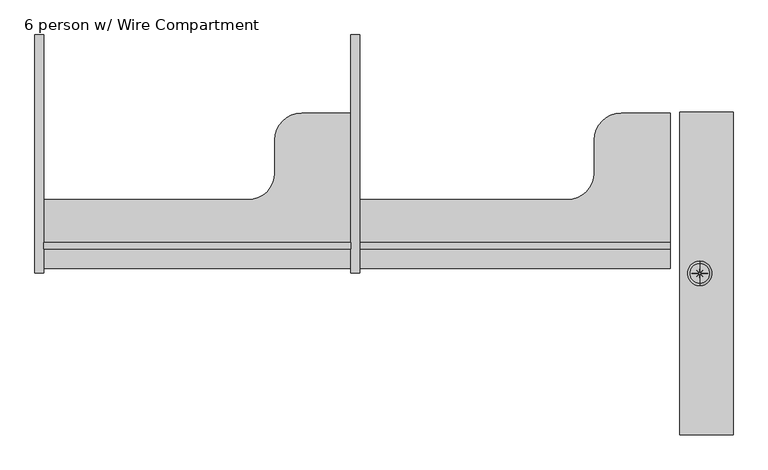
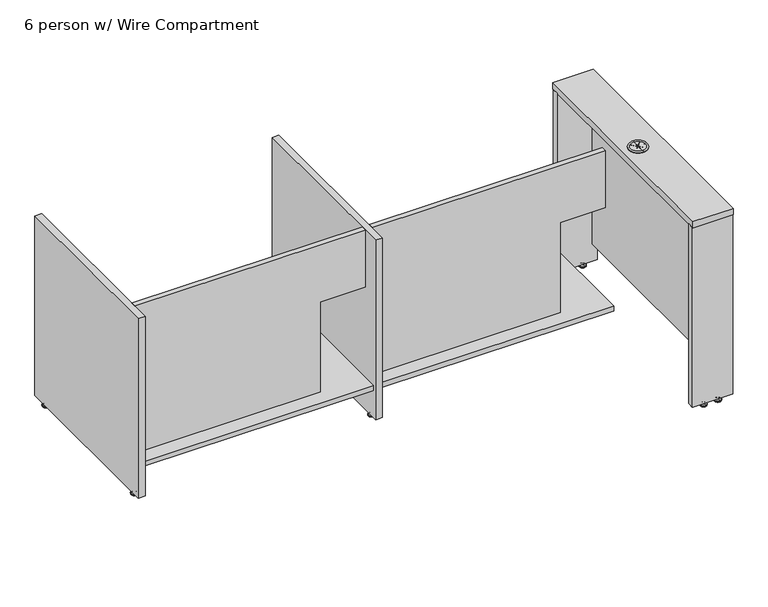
"""IFC4 building model written with IfcOpenShell, lengths in millimetres: furniture geometry, Nova Solutions - Collaboration Table - Boat_6-8 person : 6 person w/ Wire Compartment."""

from ifc_helpers import new_model, si_unit, point, frame, frame_2d, origin, place, context, project, spatial, polyline, circle_curve, ellipse_curve, trimmed, segment, composite_curve, outline, extrude, source, transform, mapped, element, save
from ifc_brep_helpers import plane_surface, cylinder_surface, revolved_surface, advanced_brep


def furniture_6_person_w_wire_compartment_4a659a42(model_context):
    return source(origin(), model_context, "Body", "SolidModel", [
        advanced_brep(
        [(981.65, -34.925, 762.0), (981.65, 34.925, 762.0), (981.65, 24.6435157, 762.0), (980.503542, 2.7677944, 762.0), (964.2244029, 17.4255971, 762.0), (978.8822056, 1.146458, 762.0), (957.0064843, 0.0, 762.0), (978.8822056, -1.146458, 762.0), (964.2244029, -17.4255971, 762.0), (980.503542, -2.7677944, 762.0), (981.65, -24.6435157, 762.0), (982.796458, -2.7677944, 762.0), (999.0755971, -17.4255971, 762.0), (984.4177944, -1.146458, 762.0), (1006.2935157, 0.0, 762.0), (984.4177944, 1.146458, 762.0), (999.0755971, 17.4255971, 762.0), (982.796458, 2.7677944, 762.0), (981.65, -34.925, 763.3787817), (981.65, 34.925, 763.3787817), (981.65, -28.7119174, 765.175), (981.65, 28.7119174, 765.175), (981.65, -24.6435157, 765.175), (980.503542, -2.7677944, 765.175), (964.2244029, -17.4255971, 765.175), (978.8822056, -1.146458, 765.175), (957.0064843, 0.0, 765.175), (978.8822056, 1.146458, 765.175), (964.2244029, 17.4255971, 765.175), (980.503542, 2.7677944, 765.175), (981.65, 24.6435157, 765.175), (982.796458, 2.7677944, 765.175), (999.0755971, 17.4255971, 765.175), (984.4177944, 1.146458, 765.175), (1006.2935157, 0.0, 765.175), (984.4177944, -1.146458, 765.175), (999.0755971, -17.4255971, 765.175), (982.796458, -2.7677944, 765.175)],
        [
            (0, 1, circle_curve(frame((981.65, 0.0, 762.0), z_axis=(0.0, 0.0, -1.0), x_axis=(0.0, 1.0, 0.0)), 34.925)),
            (1, 2),
            (2, 3),
            (3, 4),
            (4, 5),
            (5, 6),
            (6, 7),
            (7, 8),
            (8, 9),
            (9, 10),
            (10, 0),
            (1, 0, circle_curve(frame((981.65, 0.0, 762.0), z_axis=(0.0, 0.0, -1.0), x_axis=(0.0, 1.0, 0.0)), 34.925)),
            (10, 11),
            (11, 12),
            (12, 13),
            (13, 14),
            (14, 15),
            (15, 16),
            (16, 17),
            (17, 2),
            (0, 18),
            (18, 19, circle_curve(frame((981.65, 0.0, 763.3787817), z_axis=(0.0, 0.0, -1.0), x_axis=(0.0, 1.0, 0.0)), 34.925)),
            (19, 1),
            (19, 18, circle_curve(frame((981.65, 0.0, 763.3787817), z_axis=(0.0, 0.0, -1.0), x_axis=(0.0, 1.0, 0.0)), 34.925)),
            (18, 20, circle_curve(frame((981.65, -31.558813, 763.3787817), z_axis=(-1.0, 0.0, 0.0), x_axis=(0.0, -1.0, 0.0)), 3.366187)),
            (20, 21, circle_curve(frame((981.65, 0.0, 765.175), z_axis=(0.0, 0.0, -1.0), x_axis=(0.0, 1.0, 0.0)), 28.7119174)),
            (21, 19, circle_curve(frame((981.65, 31.558813, 763.3787817), z_axis=(-1.0, 0.0, 0.0), x_axis=(0.0, 1.0, 0.0)), 3.366187)),
            (21, 20, circle_curve(frame((981.65, 0.0, 765.175), z_axis=(0.0, 0.0, -1.0), x_axis=(0.0, 1.0, 0.0)), 28.7119174)),
            (20, 22),
            (22, 23),
            (23, 24),
            (24, 25),
            (25, 26),
            (26, 27),
            (27, 28),
            (28, 29),
            (29, 30),
            (30, 21),
            (30, 31),
            (31, 32),
            (32, 33),
            (33, 34),
            (34, 35),
            (35, 36),
            (36, 37),
            (37, 22),
            (26, 6),
            (5, 27),
            (25, 7),
            (24, 8),
            (23, 9),
            (22, 10),
            (37, 11),
            (36, 12),
            (35, 13),
            (34, 14),
            (33, 15),
            (32, 16),
            (31, 17),
            (30, 2),
            (29, 3),
            (28, 4),
        ],
        [
            plane_surface(frame((981.65, 0.0, 762.0), z_axis=(0.0, 0.0, -1.0), x_axis=(0.0, 1.0, 0.0))),
            cylinder_surface(frame((981.65, 0.0, 850.9), z_axis=(0.0, 0.0, 1.0), x_axis=(0.0, 1.0, 0.0)), 34.925),
            revolved_surface(trimmed(ellipse_curve(frame((981.65, 31.558813, 763.3787817), z_axis=(1.0, 0.0, 0.0), x_axis=(0.0, 1.0, 0.0)), 3.366187, 3.366187), [point((981.65, 34.925, 763.3787817))], [point((981.65, 28.7119174, 765.175))], True, "CARTESIAN"), (981.65, 0.0, 850.9), (0.0, 0.0, 1.0)),
            plane_surface(frame((981.65, 0.0, 765.175), z_axis=(0.0, 0.0, 1.0), x_axis=(0.0, 1.0, 0.0))),
            plane_surface(frame((981.65, 1.2915119, 787.4), z_axis=(0.05233595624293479, -0.9986295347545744, 0.0), x_axis=(0.0, 0.0, -1.0))),
            plane_surface(frame((957.0064843, 0.0, 787.4), z_axis=(0.052335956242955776, 0.9986295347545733, 0.0), x_axis=(0.0, 0.0, -1.0))),
            plane_surface(frame((980.7367632, 0.9132368, 787.4), z_axis=(0.7431448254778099, -0.6691306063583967, 0.0), x_axis=(0.0, 0.0, -1.0))),
            plane_surface(frame((964.2244029, -17.4255971, 787.4), z_axis=(-0.6691306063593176, 0.7431448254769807, 0.0), x_axis=(0.0, 0.0, -1.0))),
            plane_surface(frame((980.3584881, 0.0, 787.4), z_axis=(0.9986295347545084, 0.05233595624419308, 0.0), x_axis=(0.0, 0.0, -1.0))),
            plane_surface(frame((981.65, -24.6435157, 787.4), z_axis=(-0.9986295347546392, 0.05233595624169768, 0.0), x_axis=(0.0, 0.0, -1.0))),
            plane_surface(frame((980.7367632, -0.9132368, 787.4), z_axis=(0.6691306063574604, 0.743144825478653, 0.0), x_axis=(0.0, 0.0, -1.0))),
            plane_surface(frame((999.0755971, -17.4255971, 787.4), z_axis=(-0.7431448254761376, -0.669130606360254, 0.0), x_axis=(0.0, 0.0, -1.0))),
            plane_surface(frame((981.65, -1.2915119, 787.4), z_axis=(-0.052335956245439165, 0.9986295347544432, 0.0), x_axis=(0.0, 0.0, -1.0))),
            plane_surface(frame((1006.2935157, 0.0, 787.4), z_axis=(-0.05233595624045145, -0.9986295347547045, 0.0), x_axis=(0.0, 0.0, -1.0))),
            plane_surface(frame((982.5632368, -0.9132368, 787.4), z_axis=(-0.7431448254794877, 0.6691306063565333, 0.0), x_axis=(0.0, 0.0, -1.0))),
            plane_surface(frame((999.0755971, 17.4255971, 787.4), z_axis=(0.669130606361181, -0.7431448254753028, 0.0), x_axis=(0.0, 0.0, -1.0))),
            plane_surface(frame((982.9415119, 0.0, 787.4), z_axis=(-0.9986295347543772, -0.05233595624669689, 0.0), x_axis=(0.0, 0.0, -1.0))),
            plane_surface(frame((981.65, 24.6435157, 787.4), z_axis=(0.9986295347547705, -0.05233595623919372, 0.0), x_axis=(0.0, 0.0, -1.0))),
            plane_surface(frame((982.5632368, 0.9132368, 787.4), z_axis=(-0.6691306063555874, -0.7431448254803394, 0.0), x_axis=(0.0, 0.0, -1.0))),
            plane_surface(frame((964.2244029, 17.4255971, 787.4), z_axis=(0.743144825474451, 0.669130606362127, 0.0), x_axis=(0.0, 0.0, -1.0))),
        ],
        [
            (0, [[1, 2, 3, 4, 5, 6, 7, 8, 9, 10, 11]]),
            (0, [[12, -11, 13, 14, 15, 16, 17, 18, 19, 20, -2]]),
            (1, [[-1, 21, 22, 23]]),
            (1, [[-12, -23, 24, -21]]),
            (2, [[-22, 25, 26, 27]]),
            (2, [[-24, -27, 28, -25]]),
            (3, [[-26, 29, 30, 31, 32, 33, 34, 35, 36, 37, 38]]),
            (3, [[-28, -38, 39, 40, 41, 42, 43, 44, 45, 46, -29]]),
            (4, [[47, -6, 48, -34]]),
            (5, [[-47, -33, 49, -7]]),
            (6, [[50, -8, -49, -32]]),
            (7, [[-50, -31, 51, -9]]),
            (8, [[52, -10, -51, -30]]),
            (9, [[-52, -46, 53, -13]]),
            (10, [[54, -14, -53, -45]]),
            (11, [[-54, -44, 55, -15]]),
            (12, [[56, -16, -55, -43]]),
            (13, [[-56, -42, 57, -17]]),
            (14, [[58, -18, -57, -41]]),
            (15, [[-58, -40, 59, -19]]),
            (16, [[60, -20, -59, -39]]),
            (17, [[-60, -37, 61, -3]]),
            (18, [[62, -4, -61, -36]]),
            (19, [[-62, -35, -48, -5]]),
        ],
    ),
        advanced_brep(
        [(1027.6359375, 451.0276506, 11.1125), (1027.6359375, 437.6723494, 11.1125), (1027.6359375, 444.35, 11.1125), (1027.6359375, 451.0276506, 9.525), (1027.6359375, 437.6723494, 9.525), (1027.6359375, 456.2355135, 4.7748687), (1027.6359375, 432.4644865, 4.7748687), (1027.6359375, 457.0966506, 3.989419), (1027.6359375, 431.6033494, 3.989419), (1027.6359375, 457.0966506, 3.175), (1027.6359375, 431.6033494, 3.175), (1027.6359375, 456.2459119, 0.0), (1027.6359375, 432.4540881, 0.0), (1027.6359375, 444.35, 0.0)],
        [
            (0, 1, circle_curve(frame((1027.6359375, 444.35, 11.1125), z_axis=(0.0, 0.0, 1.0), x_axis=(0.0, -1.0, 0.0)), 6.6776506)),
            (1, 2),
            (2, 0),
            (1, 0, circle_curve(frame((1027.6359375, 444.35, 11.1125), z_axis=(0.0, 0.0, 1.0), x_axis=(0.0, -1.0, 0.0)), 6.6776506)),
            (3, 4, circle_curve(frame((1027.6359375, 444.35, 9.525), z_axis=(0.0, 0.0, 1.0), x_axis=(0.0, -1.0, 0.0)), 6.6776506)),
            (4, 1),
            (0, 3),
            (4, 3, circle_curve(frame((1027.6359375, 444.35, 9.525), z_axis=(0.0, 0.0, 1.0), x_axis=(0.0, -1.0, 0.0)), 6.6776506)),
            (5, 6, circle_curve(frame((1027.6359375, 444.35, 4.7748687), z_axis=(0.0, 0.0, 1.0), x_axis=(0.0, -1.0, 0.0)), 11.8855135)),
            (6, 4, circle_curve(frame((1027.6359375, 431.4179373, 11.1521822), z_axis=(1.0, 0.0, 0.0), x_axis=(0.0, 1.0, 0.0)), 6.462615)),
            (3, 5, circle_curve(frame((1027.6359375, 457.2820627, 11.1521822), z_axis=(1.0, 0.0, 0.0), x_axis=(0.0, -1.0, 0.0)), 6.462615)),
            (6, 5, circle_curve(frame((1027.6359375, 444.35, 4.7748687), z_axis=(0.0, 0.0, 1.0), x_axis=(0.0, -1.0, 0.0)), 11.8855135)),
            (7, 8, circle_curve(frame((1027.6359375, 444.35, 3.989419), z_axis=(0.0, 0.0, 1.0), x_axis=(0.0, -1.0, 0.0)), 12.7466506)),
            (8, 6, circle_curve(frame((1027.6359375, 432.6375368, 3.7203591), z_axis=(-1.0, 0.0, 0.0), x_axis=(0.0, 1.0, 0.0)), 1.0686145)),
            (5, 7, circle_curve(frame((1027.6359375, 456.0624632, 3.7203591), z_axis=(-1.0, 0.0, 0.0), x_axis=(0.0, -1.0, 0.0)), 1.0686145)),
            (8, 7, circle_curve(frame((1027.6359375, 444.35, 3.989419), z_axis=(0.0, 0.0, 1.0), x_axis=(0.0, -1.0, 0.0)), 12.7466506)),
            (9, 10, circle_curve(frame((1027.6359375, 444.35, 3.175), z_axis=(0.0, 0.0, 1.0), x_axis=(0.0, -1.0, 0.0)), 12.7466506)),
            (10, 8),
            (7, 9),
            (10, 9, circle_curve(frame((1027.6359375, 444.35, 3.175), z_axis=(0.0, 0.0, 1.0), x_axis=(0.0, -1.0, 0.0)), 12.7466506)),
            (11, 12, circle_curve(frame((1027.6359375, 444.35, 0.0), z_axis=(0.0, 0.0, 1.0), x_axis=(0.0, -1.0, 0.0)), 11.8959119)),
            (12, 10),
            (9, 11),
            (12, 11, circle_curve(frame((1027.6359375, 444.35, 0.0), z_axis=(0.0, 0.0, 1.0), x_axis=(0.0, -1.0, 0.0)), 11.8959119)),
            (13, 12),
            (11, 13),
        ],
        [
            plane_surface(frame((1027.6359375, 444.35, 11.1125), z_axis=(0.0, 0.0, 1.0), x_axis=(0.0, -1.0, 0.0))),
            cylinder_surface(frame((1027.6359375, 444.35, 43.2095994), z_axis=(0.0, 0.0, -1.0), x_axis=(0.0, -1.0, 0.0)), 6.6776506),
            revolved_surface(trimmed(ellipse_curve(frame((1027.6359375, 431.4179373, 11.1521822), z_axis=(-1.0, 0.0, 0.0), x_axis=(0.0, 1.0, 0.0)), 6.462615, 6.462615), [point((1027.6359375, 437.6723494, 9.525))], [point((1027.6359375, 432.4644865, 4.7748687))], True, "CARTESIAN"), (1027.6359375, 444.35, 43.2095994), (0.0, 0.0, -1.0)),
            revolved_surface(trimmed(ellipse_curve(frame((1027.6359375, 432.6375368, 3.7203591), z_axis=(1.0, 0.0, 0.0), x_axis=(0.0, 1.0, 0.0)), 1.0686145, 1.0686145), [point((1027.6359375, 432.4644865, 4.7748687))], [point((1027.6359375, 431.6033494, 3.989419))], True, "CARTESIAN"), (1027.6359375, 444.35, 43.2095994), (0.0, 0.0, -1.0)),
            cylinder_surface(frame((1027.6359375, 444.35, 43.2095994), z_axis=(0.0, 0.0, -1.0), x_axis=(0.0, -1.0, 0.0)), 12.7466506),
            revolved_surface(polyline([(1027.6359375, 431.6033494, 3.175), (1027.6359375, 432.4540881, 0.0)]), (1027.6359375, 444.35, 43.2095994), (0.0, 0.0, -1.0)),
            plane_surface(frame((1027.6359375, 444.35, 0.0), z_axis=(0.0, 0.0, -1.0), x_axis=(0.0, -1.0, 0.0))),
        ],
        [
            (0, [[1, 2, 3]]),
            (0, [[4, -3, -2]]),
            (1, [[5, 6, -1, 7]]),
            (1, [[8, -7, -4, -6]]),
            (2, [[9, 10, -5, 11]]),
            (2, [[12, -11, -8, -10]]),
            (3, [[13, 14, -9, 15]]),
            (3, [[16, -15, -12, -14]]),
            (4, [[17, 18, -13, 19]]),
            (4, [[20, -19, -16, -18]]),
            (5, [[21, 22, -17, 23]]),
            (5, [[24, -23, -20, -22]]),
            (6, [[25, -21, 26]]),
            (6, [[-26, -24, -25]]),
        ],
    ),
        advanced_brep(
        [(973.2640625, 451.0276506, 11.1125), (973.2640625, 437.6723494, 11.1125), (973.2640625, 444.35, 11.1125), (973.2640625, 451.0276506, 9.525), (973.2640625, 437.6723494, 9.525), (973.2640625, 456.2355135, 4.7748687), (973.2640625, 432.4644865, 4.7748687), (973.2640625, 457.0966506, 3.989419), (973.2640625, 431.6033494, 3.989419), (973.2640625, 457.0966506, 3.175), (973.2640625, 431.6033494, 3.175), (973.2640625, 456.2459119, 0.0), (973.2640625, 432.4540881, 0.0), (973.2640625, 444.35, 0.0)],
        [
            (0, 1, circle_curve(frame((973.2640625, 444.35, 11.1125), z_axis=(0.0, 0.0, 1.0), x_axis=(0.0, -1.0, 0.0)), 6.6776506)),
            (1, 2),
            (2, 0),
            (1, 0, circle_curve(frame((973.2640625, 444.35, 11.1125), z_axis=(0.0, 0.0, 1.0), x_axis=(0.0, -1.0, 0.0)), 6.6776506)),
            (3, 4, circle_curve(frame((973.2640625, 444.35, 9.525), z_axis=(0.0, 0.0, 1.0), x_axis=(0.0, -1.0, 0.0)), 6.6776506)),
            (4, 1),
            (0, 3),
            (4, 3, circle_curve(frame((973.2640625, 444.35, 9.525), z_axis=(0.0, 0.0, 1.0), x_axis=(0.0, -1.0, 0.0)), 6.6776506)),
            (5, 6, circle_curve(frame((973.2640625, 444.35, 4.7748687), z_axis=(0.0, 0.0, 1.0), x_axis=(0.0, -1.0, 0.0)), 11.8855135)),
            (6, 4, circle_curve(frame((973.2640625, 431.4179373, 11.1521822), z_axis=(1.0, 0.0, 0.0), x_axis=(0.0, 1.0, 0.0)), 6.462615)),
            (3, 5, circle_curve(frame((973.2640625, 457.2820627, 11.1521822), z_axis=(1.0, 0.0, 0.0), x_axis=(0.0, -1.0, 0.0)), 6.462615)),
            (6, 5, circle_curve(frame((973.2640625, 444.35, 4.7748687), z_axis=(0.0, 0.0, 1.0), x_axis=(0.0, -1.0, 0.0)), 11.8855135)),
            (7, 8, circle_curve(frame((973.2640625, 444.35, 3.989419), z_axis=(0.0, 0.0, 1.0), x_axis=(0.0, -1.0, 0.0)), 12.7466506)),
            (8, 6, circle_curve(frame((973.2640625, 432.6375368, 3.7203591), z_axis=(-1.0, 0.0, 0.0), x_axis=(0.0, 1.0, 0.0)), 1.0686145)),
            (5, 7, circle_curve(frame((973.2640625, 456.0624632, 3.7203591), z_axis=(-1.0, 0.0, 0.0), x_axis=(0.0, -1.0, 0.0)), 1.0686145)),
            (8, 7, circle_curve(frame((973.2640625, 444.35, 3.989419), z_axis=(0.0, 0.0, 1.0), x_axis=(0.0, -1.0, 0.0)), 12.7466506)),
            (9, 10, circle_curve(frame((973.2640625, 444.35, 3.175), z_axis=(0.0, 0.0, 1.0), x_axis=(0.0, -1.0, 0.0)), 12.7466506)),
            (10, 8),
            (7, 9),
            (10, 9, circle_curve(frame((973.2640625, 444.35, 3.175), z_axis=(0.0, 0.0, 1.0), x_axis=(0.0, -1.0, 0.0)), 12.7466506)),
            (11, 12, circle_curve(frame((973.2640625, 444.35, 0.0), z_axis=(0.0, 0.0, 1.0), x_axis=(0.0, -1.0, 0.0)), 11.8959119)),
            (12, 10),
            (9, 11),
            (12, 11, circle_curve(frame((973.2640625, 444.35, 0.0), z_axis=(0.0, 0.0, 1.0), x_axis=(0.0, -1.0, 0.0)), 11.8959119)),
            (13, 12),
            (11, 13),
        ],
        [
            plane_surface(frame((973.2640625, 444.35, 11.1125), z_axis=(0.0, 0.0, 1.0), x_axis=(0.0, -1.0, 0.0))),
            cylinder_surface(frame((973.2640625, 444.35, 43.2095994), z_axis=(0.0, 0.0, -1.0), x_axis=(0.0, -1.0, 0.0)), 6.6776506),
            revolved_surface(trimmed(ellipse_curve(frame((973.2640625, 431.4179373, 11.1521822), z_axis=(-1.0, 0.0, 0.0), x_axis=(0.0, 1.0, 0.0)), 6.462615, 6.462615), [point((973.2640625, 437.6723494, 9.525))], [point((973.2640625, 432.4644865, 4.7748687))], True, "CARTESIAN"), (973.2640625, 444.35, 43.2095994), (0.0, 0.0, -1.0)),
            revolved_surface(trimmed(ellipse_curve(frame((973.2640625, 432.6375368, 3.7203591), z_axis=(1.0, 0.0, 0.0), x_axis=(0.0, 1.0, 0.0)), 1.0686145, 1.0686145), [point((973.2640625, 432.4644865, 4.7748687))], [point((973.2640625, 431.6033494, 3.989419))], True, "CARTESIAN"), (973.2640625, 444.35, 43.2095994), (0.0, 0.0, -1.0)),
            cylinder_surface(frame((973.2640625, 444.35, 43.2095994), z_axis=(0.0, 0.0, -1.0), x_axis=(0.0, -1.0, 0.0)), 12.7466506),
            revolved_surface(polyline([(973.2640625, 431.6033494, 3.175), (973.2640625, 432.4540881, 0.0)]), (973.2640625, 444.35, 43.2095994), (0.0, 0.0, -1.0)),
            plane_surface(frame((973.2640625, 444.35, 0.0), z_axis=(0.0, 0.0, -1.0), x_axis=(0.0, -1.0, 0.0))),
        ],
        [
            (0, [[1, 2, 3]]),
            (0, [[4, -3, -2]]),
            (1, [[5, 6, -1, 7]]),
            (1, [[8, -7, -4, -6]]),
            (2, [[9, 10, -5, 11]]),
            (2, [[12, -11, -8, -10]]),
            (3, [[13, 14, -9, 15]]),
            (3, [[16, -15, -12, -14]]),
            (4, [[17, 18, -13, 19]]),
            (4, [[20, -19, -16, -18]]),
            (5, [[21, 22, -17, 23]]),
            (5, [[24, -23, -20, -22]]),
            (6, [[25, -21, 26]]),
            (6, [[-26, -24, -25]]),
        ],
    ),
        extrude(outline(polyline([(924.25, 457.2), (1076.65, 457.2), (1076.65, 431.5), (924.25, 431.5), (924.25, 457.2)])), frame((0.0, 0.0, 15.6), z_axis=(0.0, 0.0, 1.0), x_axis=(1.0, 0.0, 0.0)), (0.0, 0.0, 1.0), 720.7),
        advanced_brep(
        [(1027.6359375, -451.0276506, 11.1125), (1027.6359375, -444.35, 11.1125), (1027.6359375, -437.6723494, 11.1125), (1027.6359375, -451.0276506, 9.525), (1027.6359375, -437.6723494, 9.525), (1027.6359375, -456.2355135, 4.7748687), (1027.6359375, -432.4644865, 4.7748687), (1027.6359375, -457.0966506, 3.989419), (1027.6359375, -431.6033494, 3.989419), (1027.6359375, -457.0966506, 3.175), (1027.6359375, -431.6033494, 3.175), (1027.6359375, -456.2459119, 0.0), (1027.6359375, -432.4540881, 0.0), (1027.6359375, -444.35, 0.0)],
        [
            (0, 1),
            (1, 2),
            (2, 0, circle_curve(frame((1027.6359375, -444.35, 11.1125), z_axis=(0.0, 0.0, 1.0), x_axis=(0.0, 1.0, 0.0)), 6.6776506)),
            (0, 2, circle_curve(frame((1027.6359375, -444.35, 11.1125), z_axis=(0.0, 0.0, 1.0), x_axis=(0.0, 1.0, 0.0)), 6.6776506)),
            (3, 0),
            (2, 4),
            (4, 3, circle_curve(frame((1027.6359375, -444.35, 9.525), z_axis=(0.0, 0.0, 1.0), x_axis=(0.0, 1.0, 0.0)), 6.6776506)),
            (3, 4, circle_curve(frame((1027.6359375, -444.35, 9.525), z_axis=(0.0, 0.0, 1.0), x_axis=(0.0, 1.0, 0.0)), 6.6776506)),
            (5, 3, circle_curve(frame((1027.6359375, -457.2820627, 11.1521822), z_axis=(1.0, 0.0, 0.0), x_axis=(0.0, 1.0, 0.0)), 6.462615)),
            (4, 6, circle_curve(frame((1027.6359375, -431.4179373, 11.1521822), z_axis=(1.0, 0.0, 0.0), x_axis=(0.0, -1.0, 0.0)), 6.462615)),
            (6, 5, circle_curve(frame((1027.6359375, -444.35, 4.7748687), z_axis=(0.0, 0.0, 1.0), x_axis=(0.0, 1.0, 0.0)), 11.8855135)),
            (5, 6, circle_curve(frame((1027.6359375, -444.35, 4.7748687), z_axis=(0.0, 0.0, 1.0), x_axis=(0.0, 1.0, 0.0)), 11.8855135)),
            (7, 5, circle_curve(frame((1027.6359375, -456.0624632, 3.7203591), z_axis=(-1.0, 0.0, 0.0), x_axis=(0.0, 1.0, 0.0)), 1.0686145)),
            (6, 8, circle_curve(frame((1027.6359375, -432.6375368, 3.7203591), z_axis=(-1.0, 0.0, 0.0), x_axis=(0.0, -1.0, 0.0)), 1.0686145)),
            (8, 7, circle_curve(frame((1027.6359375, -444.35, 3.989419), z_axis=(0.0, 0.0, 1.0), x_axis=(0.0, 1.0, 0.0)), 12.7466506)),
            (7, 8, circle_curve(frame((1027.6359375, -444.35, 3.989419), z_axis=(0.0, 0.0, 1.0), x_axis=(0.0, 1.0, 0.0)), 12.7466506)),
            (9, 7),
            (8, 10),
            (10, 9, circle_curve(frame((1027.6359375, -444.35, 3.175), z_axis=(0.0, 0.0, 1.0), x_axis=(0.0, 1.0, 0.0)), 12.7466506)),
            (9, 10, circle_curve(frame((1027.6359375, -444.35, 3.175), z_axis=(0.0, 0.0, 1.0), x_axis=(0.0, 1.0, 0.0)), 12.7466506)),
            (11, 9),
            (10, 12),
            (12, 11, circle_curve(frame((1027.6359375, -444.35, 0.0), z_axis=(0.0, 0.0, 1.0), x_axis=(0.0, 1.0, 0.0)), 11.8959119)),
            (11, 12, circle_curve(frame((1027.6359375, -444.35, 0.0), z_axis=(0.0, 0.0, 1.0), x_axis=(0.0, 1.0, 0.0)), 11.8959119)),
            (13, 11),
            (12, 13),
        ],
        [
            plane_surface(frame((1027.6359375, -444.35, 11.1125), z_axis=(0.0, 0.0, 1.0), x_axis=(0.0, 1.0, 0.0))),
            cylinder_surface(frame((1027.6359375, -444.35, 43.2095994), z_axis=(0.0, 0.0, -1.0), x_axis=(0.0, 1.0, 0.0)), 6.6776506),
            revolved_surface(trimmed(ellipse_curve(frame((1027.6359375, -431.4179373, 11.1521822), z_axis=(1.0, 0.0, 0.0), x_axis=(0.0, -1.0, 0.0)), 6.462615, 6.462615), [point((1027.6359375, -437.6723494, 9.525))], [point((1027.6359375, -432.4644865, 4.7748687))], True, "CARTESIAN"), (1027.6359375, -444.35, 43.2095994), (0.0, 0.0, -1.0)),
            revolved_surface(trimmed(ellipse_curve(frame((1027.6359375, -432.6375368, 3.7203591), z_axis=(-1.0, 0.0, 0.0), x_axis=(0.0, -1.0, 0.0)), 1.0686145, 1.0686145), [point((1027.6359375, -432.4644865, 4.7748687))], [point((1027.6359375, -431.6033494, 3.989419))], True, "CARTESIAN"), (1027.6359375, -444.35, 43.2095994), (0.0, 0.0, -1.0)),
            cylinder_surface(frame((1027.6359375, -444.35, 43.2095994), z_axis=(0.0, 0.0, -1.0), x_axis=(0.0, 1.0, 0.0)), 12.7466506),
            revolved_surface(polyline([(1027.6359375, -431.6033494, 3.175), (1027.6359375, -432.4540881, 0.0)]), (1027.6359375, -444.35, 43.2095994), (0.0, 0.0, -1.0)),
            plane_surface(frame((1027.6359375, -444.35, 0.0), z_axis=(0.0, 0.0, -1.0), x_axis=(0.0, 1.0, 0.0))),
        ],
        [
            (0, [[1, 2, 3]]),
            (0, [[-2, -1, 4]]),
            (1, [[5, -3, 6, 7]]),
            (1, [[-6, -4, -5, 8]]),
            (2, [[9, -7, 10, 11]]),
            (2, [[-10, -8, -9, 12]]),
            (3, [[13, -11, 14, 15]]),
            (3, [[-14, -12, -13, 16]]),
            (4, [[17, -15, 18, 19]]),
            (4, [[-18, -16, -17, 20]]),
            (5, [[21, -19, 22, 23]]),
            (5, [[-22, -20, -21, 24]]),
            (6, [[25, -23, 26]]),
            (6, [[-26, -24, -25]]),
        ],
    ),
        advanced_brep(
        [(973.2640625, -451.0276506, 11.1125), (973.2640625, -444.35, 11.1125), (973.2640625, -437.6723494, 11.1125), (973.2640625, -451.0276506, 9.525), (973.2640625, -437.6723494, 9.525), (973.2640625, -456.2355135, 4.7748687), (973.2640625, -432.4644865, 4.7748687), (973.2640625, -457.0966506, 3.989419), (973.2640625, -431.6033494, 3.989419), (973.2640625, -457.0966506, 3.175), (973.2640625, -431.6033494, 3.175), (973.2640625, -456.2459119, 0.0), (973.2640625, -432.4540881, 0.0), (973.2640625, -444.35, 0.0)],
        [
            (0, 1),
            (1, 2),
            (2, 0, circle_curve(frame((973.2640625, -444.35, 11.1125), z_axis=(0.0, 0.0, 1.0), x_axis=(0.0, 1.0, 0.0)), 6.6776506)),
            (0, 2, circle_curve(frame((973.2640625, -444.35, 11.1125), z_axis=(0.0, 0.0, 1.0), x_axis=(0.0, 1.0, 0.0)), 6.6776506)),
            (3, 0),
            (2, 4),
            (4, 3, circle_curve(frame((973.2640625, -444.35, 9.525), z_axis=(0.0, 0.0, 1.0), x_axis=(0.0, 1.0, 0.0)), 6.6776506)),
            (3, 4, circle_curve(frame((973.2640625, -444.35, 9.525), z_axis=(0.0, 0.0, 1.0), x_axis=(0.0, 1.0, 0.0)), 6.6776506)),
            (5, 3, circle_curve(frame((973.2640625, -457.2820627, 11.1521822), z_axis=(1.0, 0.0, 0.0), x_axis=(0.0, 1.0, 0.0)), 6.462615)),
            (4, 6, circle_curve(frame((973.2640625, -431.4179373, 11.1521822), z_axis=(1.0, 0.0, 0.0), x_axis=(0.0, -1.0, 0.0)), 6.462615)),
            (6, 5, circle_curve(frame((973.2640625, -444.35, 4.7748687), z_axis=(0.0, 0.0, 1.0), x_axis=(0.0, 1.0, 0.0)), 11.8855135)),
            (5, 6, circle_curve(frame((973.2640625, -444.35, 4.7748687), z_axis=(0.0, 0.0, 1.0), x_axis=(0.0, 1.0, 0.0)), 11.8855135)),
            (7, 5, circle_curve(frame((973.2640625, -456.0624632, 3.7203591), z_axis=(-1.0, 0.0, 0.0), x_axis=(0.0, 1.0, 0.0)), 1.0686145)),
            (6, 8, circle_curve(frame((973.2640625, -432.6375368, 3.7203591), z_axis=(-1.0, 0.0, 0.0), x_axis=(0.0, -1.0, 0.0)), 1.0686145)),
            (8, 7, circle_curve(frame((973.2640625, -444.35, 3.989419), z_axis=(0.0, 0.0, 1.0), x_axis=(0.0, 1.0, 0.0)), 12.7466506)),
            (7, 8, circle_curve(frame((973.2640625, -444.35, 3.989419), z_axis=(0.0, 0.0, 1.0), x_axis=(0.0, 1.0, 0.0)), 12.7466506)),
            (9, 7),
            (8, 10),
            (10, 9, circle_curve(frame((973.2640625, -444.35, 3.175), z_axis=(0.0, 0.0, 1.0), x_axis=(0.0, 1.0, 0.0)), 12.7466506)),
            (9, 10, circle_curve(frame((973.2640625, -444.35, 3.175), z_axis=(0.0, 0.0, 1.0), x_axis=(0.0, 1.0, 0.0)), 12.7466506)),
            (11, 9),
            (10, 12),
            (12, 11, circle_curve(frame((973.2640625, -444.35, 0.0), z_axis=(0.0, 0.0, 1.0), x_axis=(0.0, 1.0, 0.0)), 11.8959119)),
            (11, 12, circle_curve(frame((973.2640625, -444.35, 0.0), z_axis=(0.0, 0.0, 1.0), x_axis=(0.0, 1.0, 0.0)), 11.8959119)),
            (13, 11),
            (12, 13),
        ],
        [
            plane_surface(frame((973.2640625, -444.35, 11.1125), z_axis=(0.0, 0.0, 1.0), x_axis=(0.0, 1.0, 0.0))),
            cylinder_surface(frame((973.2640625, -444.35, 43.2095994), z_axis=(0.0, 0.0, -1.0), x_axis=(0.0, 1.0, 0.0)), 6.6776506),
            revolved_surface(trimmed(ellipse_curve(frame((973.2640625, -431.4179373, 11.1521822), z_axis=(1.0, 0.0, 0.0), x_axis=(0.0, -1.0, 0.0)), 6.462615, 6.462615), [point((973.2640625, -437.6723494, 9.525))], [point((973.2640625, -432.4644865, 4.7748687))], True, "CARTESIAN"), (973.2640625, -444.35, 43.2095994), (0.0, 0.0, -1.0)),
            revolved_surface(trimmed(ellipse_curve(frame((973.2640625, -432.6375368, 3.7203591), z_axis=(-1.0, 0.0, 0.0), x_axis=(0.0, -1.0, 0.0)), 1.0686145, 1.0686145), [point((973.2640625, -432.4644865, 4.7748687))], [point((973.2640625, -431.6033494, 3.989419))], True, "CARTESIAN"), (973.2640625, -444.35, 43.2095994), (0.0, 0.0, -1.0)),
            cylinder_surface(frame((973.2640625, -444.35, 43.2095994), z_axis=(0.0, 0.0, -1.0), x_axis=(0.0, 1.0, 0.0)), 12.7466506),
            revolved_surface(polyline([(973.2640625, -431.6033494, 3.175), (973.2640625, -432.4540881, 0.0)]), (973.2640625, -444.35, 43.2095994), (0.0, 0.0, -1.0)),
            plane_surface(frame((973.2640625, -444.35, 0.0), z_axis=(0.0, 0.0, -1.0), x_axis=(0.0, 1.0, 0.0))),
        ],
        [
            (0, [[1, 2, 3]]),
            (0, [[-2, -1, 4]]),
            (1, [[5, -3, 6, 7]]),
            (1, [[-6, -4, -5, 8]]),
            (2, [[9, -7, 10, 11]]),
            (2, [[-10, -8, -9, 12]]),
            (3, [[13, -11, 14, 15]]),
            (3, [[-14, -12, -13, 16]]),
            (4, [[17, -15, 18, 19]]),
            (4, [[-18, -16, -17, 20]]),
            (5, [[21, -19, 22, 23]]),
            (5, [[-22, -20, -21, 24]]),
            (6, [[25, -23, 26]]),
            (6, [[-26, -24, -25]]),
        ],
    ),
        extrude(outline(polyline([(924.25, -457.2), (924.25, -431.5), (1076.65, -431.5), (1076.65, -457.2), (924.25, -457.2)])), frame((0.0, 0.0, 15.6), z_axis=(0.0, 0.0, 1.0), x_axis=(1.0, 0.0, 0.0)), (0.0, 0.0, 1.0), 720.7),
        extrude(outline(polyline([(1076.07, -431.0), (1057.02, -431.0), (1057.02, 431.0), (1076.07, 431.0), (1076.07, -431.0)])), frame((0.0, 0.0, 85.615), z_axis=(0.0, 0.0, 1.0), x_axis=(1.0, 0.0, 0.0)), (0.0, 0.0, 1.0), 625.285),
        extrude(outline(polyline([(1076.65, 460.1), (1076.65, -460.1), (924.25, -460.1), (924.25, 460.1), (1076.65, 460.1)])), frame((0.0, 0.0, 736.3), z_axis=(0.0, 0.0, 1.0), x_axis=(1.0, 0.0, 0.0)), (0.0, 0.0, 1.0), 25.7),
        extrude(outline(polyline([(145.5, -887.176), (145.5, -183.85), (507.4, -183.85), (507.4, -12.85), (736.3, -12.85), (736.3, -887.176), (145.5, -887.176)])), frame((0.0, 69.4, 0.0), z_axis=(0.0, 1.0, 0.0), x_axis=(0.0, 0.0, 1.0)), (0.0, 0.0, 1.0), 19.2),
        extrude(outline(composite_curve([segment(polyline([(-887.176, 14.1), (-887.176, 210.4), (-305.05, 210.4)]), True, "CONTINUOUS"), segment(trimmed(circle_curve(frame_2d((-305.05, 286.6)), 76.2), [point((-305.05, 210.4))], [point((-228.85, 286.6))], True, "CARTESIAN"), True, "CONTINUOUS"), segment(polyline([(-228.85, 286.6), (-228.85, 381.0625)]), True, "CONTINUOUS"), segment(trimmed(circle_curve(frame_2d((-152.65, 381.0625)), 76.2), [point((-228.85, 381.0625))], [point((-152.65, 457.2625))], False, "CARTESIAN"), True, "CONTINUOUS"), segment(polyline([(-152.65, 457.2625), (-12.85, 457.2625), (-12.85, 14.1), (-887.176, 14.1)]), True, "CONTINUOUS")], self_intersect=False)), frame((0.0, 0.0, 126.3), z_axis=(0.0, 0.0, 1.0), x_axis=(1.0, 0.0, 0.0)), (0.0, 0.0, 1.0), 19.2),
        advanced_brep(
        [(-906.7036506, 631.3859375, 11.1125), (-893.3483494, 631.3859375, 11.1125), (-900.026, 631.3859375, 11.1125), (-906.7036506, 631.3859375, 9.525), (-893.3483494, 631.3859375, 9.525), (-911.9115135, 631.3859375, 4.7748687), (-888.1404865, 631.3859375, 4.7748687), (-912.7726506, 631.3859375, 3.989419), (-887.2793494, 631.3859375, 3.989419), (-912.7726506, 631.3859375, 3.175), (-887.2793494, 631.3859375, 3.175), (-911.9219119, 631.3859375, 0.0), (-888.1300881, 631.3859375, 0.0), (-900.026, 631.3859375, 0.0)],
        [
            (0, 1, circle_curve(frame((-900.026, 631.3859375, 11.1125), z_axis=(0.0, 0.0, 1.0), x_axis=(1.0, 0.0, 0.0)), 6.6776506)),
            (1, 2),
            (2, 0),
            (1, 0, circle_curve(frame((-900.026, 631.3859375, 11.1125), z_axis=(0.0, 0.0, 1.0), x_axis=(1.0, 0.0, 0.0)), 6.6776506)),
            (3, 4, circle_curve(frame((-900.026, 631.3859375, 9.525), z_axis=(0.0, 0.0, 1.0), x_axis=(1.0, 0.0, 0.0)), 6.6776506)),
            (4, 1),
            (0, 3),
            (4, 3, circle_curve(frame((-900.026, 631.3859375, 9.525), z_axis=(0.0, 0.0, 1.0), x_axis=(1.0, 0.0, 0.0)), 6.6776506)),
            (5, 6, circle_curve(frame((-900.026, 631.3859375, 4.7748687), z_axis=(0.0, 0.0, 1.0), x_axis=(1.0, 0.0, 0.0)), 11.8855135)),
            (6, 4, circle_curve(frame((-887.0939373, 631.3859375, 11.1521822), z_axis=(0.0, 1.0, 0.0), x_axis=(-1.0, 0.0, 0.0)), 6.462615)),
            (3, 5, circle_curve(frame((-912.9580627, 631.3859375, 11.1521822), z_axis=(0.0, 1.0, 0.0), x_axis=(1.0, 0.0, 0.0)), 6.462615)),
            (6, 5, circle_curve(frame((-900.026, 631.3859375, 4.7748687), z_axis=(0.0, 0.0, 1.0), x_axis=(1.0, 0.0, 0.0)), 11.8855135)),
            (7, 8, circle_curve(frame((-900.026, 631.3859375, 3.989419), z_axis=(0.0, 0.0, 1.0), x_axis=(1.0, 0.0, 0.0)), 12.7466506)),
            (8, 6, circle_curve(frame((-888.3135368, 631.3859375, 3.7203591), z_axis=(0.0, -1.0, 0.0), x_axis=(-1.0, 0.0, 0.0)), 1.0686145)),
            (5, 7, circle_curve(frame((-911.7384632, 631.3859375, 3.7203591), z_axis=(0.0, -1.0, 0.0), x_axis=(1.0, 0.0, 0.0)), 1.0686145)),
            (8, 7, circle_curve(frame((-900.026, 631.3859375, 3.989419), z_axis=(0.0, 0.0, 1.0), x_axis=(1.0, 0.0, 0.0)), 12.7466506)),
            (9, 10, circle_curve(frame((-900.026, 631.3859375, 3.175), z_axis=(0.0, 0.0, 1.0), x_axis=(1.0, 0.0, 0.0)), 12.7466506)),
            (10, 8),
            (7, 9),
            (10, 9, circle_curve(frame((-900.026, 631.3859375, 3.175), z_axis=(0.0, 0.0, 1.0), x_axis=(1.0, 0.0, 0.0)), 12.7466506)),
            (11, 12, circle_curve(frame((-900.026, 631.3859375, 0.0), z_axis=(0.0, 0.0, 1.0), x_axis=(1.0, 0.0, 0.0)), 11.8959119)),
            (12, 10),
            (9, 11),
            (12, 11, circle_curve(frame((-900.026, 631.3859375, 0.0), z_axis=(0.0, 0.0, 1.0), x_axis=(1.0, 0.0, 0.0)), 11.8959119)),
            (13, 12),
            (11, 13),
        ],
        [
            plane_surface(frame((-900.026, 631.3859375, 11.1125), z_axis=(0.0, 0.0, 1.0), x_axis=(1.0, 0.0, 0.0))),
            cylinder_surface(frame((-900.026, 631.3859375, 43.2095994), z_axis=(0.0, 0.0, -1.0), x_axis=(1.0, 0.0, 0.0)), 6.6776506),
            revolved_surface(trimmed(ellipse_curve(frame((-887.0939373, 631.3859375, 11.1521822), z_axis=(0.0, -1.0, 0.0), x_axis=(-1.0, 0.0, 0.0)), 6.462615, 6.462615), [point((-893.3483494, 631.3859375, 9.525))], [point((-888.1404865, 631.3859375, 4.7748687))], True, "CARTESIAN"), (-900.026, 631.3859375, 43.2095994), (0.0, 0.0, -1.0)),
            revolved_surface(trimmed(ellipse_curve(frame((-888.3135368, 631.3859375, 3.7203591), z_axis=(0.0, 1.0, 0.0), x_axis=(-1.0, 0.0, 0.0)), 1.0686145, 1.0686145), [point((-888.1404865, 631.3859375, 4.7748687))], [point((-887.2793494, 631.3859375, 3.989419))], True, "CARTESIAN"), (-900.026, 631.3859375, 43.2095994), (0.0, 0.0, -1.0)),
            cylinder_surface(frame((-900.026, 631.3859375, 43.2095994), z_axis=(0.0, 0.0, -1.0), x_axis=(1.0, 0.0, 0.0)), 12.7466506),
            revolved_surface(polyline([(-887.2793494, 631.3859375, 3.175), (-888.1300881, 631.3859375, 0.0)]), (-900.026, 631.3859375, 43.2095994), (0.0, 0.0, -1.0)),
            plane_surface(frame((-900.026, 631.3859375, 0.0), z_axis=(0.0, 0.0, -1.0), x_axis=(1.0, 0.0, 0.0))),
        ],
        [
            (0, [[1, 2, 3]]),
            (0, [[4, -3, -2]]),
            (1, [[5, 6, -1, 7]]),
            (1, [[8, -7, -4, -6]]),
            (2, [[9, 10, -5, 11]]),
            (2, [[12, -11, -8, -10]]),
            (3, [[13, 14, -9, 15]]),
            (3, [[16, -15, -12, -14]]),
            (4, [[17, 18, -13, 19]]),
            (4, [[20, -19, -16, -18]]),
            (5, [[21, 22, -17, 23]]),
            (5, [[24, -23, -20, -22]]),
            (6, [[25, -21, 26]]),
            (6, [[-26, -24, -25]]),
        ],
    ),
        advanced_brep(
        [(-906.7036506, 50.4140625, 11.1125), (-893.3483494, 50.4140625, 11.1125), (-900.026, 50.4140625, 11.1125), (-906.7036506, 50.4140625, 9.525), (-893.3483494, 50.4140625, 9.525), (-911.9115135, 50.4140625, 4.7748687), (-888.1404865, 50.4140625, 4.7748687), (-912.7726506, 50.4140625, 3.989419), (-887.2793494, 50.4140625, 3.989419), (-912.7726506, 50.4140625, 3.175), (-887.2793494, 50.4140625, 3.175), (-911.9219119, 50.4140625, 0.0), (-888.1300881, 50.4140625, 0.0), (-900.026, 50.4140625, 0.0)],
        [
            (0, 1, circle_curve(frame((-900.026, 50.4140625, 11.1125), z_axis=(0.0, 0.0, 1.0), x_axis=(1.0, 0.0, 0.0)), 6.6776506)),
            (1, 2),
            (2, 0),
            (1, 0, circle_curve(frame((-900.026, 50.4140625, 11.1125), z_axis=(0.0, 0.0, 1.0), x_axis=(1.0, 0.0, 0.0)), 6.6776506)),
            (3, 4, circle_curve(frame((-900.026, 50.4140625, 9.525), z_axis=(0.0, 0.0, 1.0), x_axis=(1.0, 0.0, 0.0)), 6.6776506)),
            (4, 1),
            (0, 3),
            (4, 3, circle_curve(frame((-900.026, 50.4140625, 9.525), z_axis=(0.0, 0.0, 1.0), x_axis=(1.0, 0.0, 0.0)), 6.6776506)),
            (5, 6, circle_curve(frame((-900.026, 50.4140625, 4.7748687), z_axis=(0.0, 0.0, 1.0), x_axis=(1.0, 0.0, 0.0)), 11.8855135)),
            (6, 4, circle_curve(frame((-887.0939373, 50.4140625, 11.1521822), z_axis=(0.0, 1.0, 0.0), x_axis=(-1.0, 0.0, 0.0)), 6.462615)),
            (3, 5, circle_curve(frame((-912.9580627, 50.4140625, 11.1521822), z_axis=(0.0, 1.0, 0.0), x_axis=(1.0, 0.0, 0.0)), 6.462615)),
            (6, 5, circle_curve(frame((-900.026, 50.4140625, 4.7748687), z_axis=(0.0, 0.0, 1.0), x_axis=(1.0, 0.0, 0.0)), 11.8855135)),
            (7, 8, circle_curve(frame((-900.026, 50.4140625, 3.989419), z_axis=(0.0, 0.0, 1.0), x_axis=(1.0, 0.0, 0.0)), 12.7466506)),
            (8, 6, circle_curve(frame((-888.3135368, 50.4140625, 3.7203591), z_axis=(0.0, -1.0, 0.0), x_axis=(-1.0, 0.0, 0.0)), 1.0686145)),
            (5, 7, circle_curve(frame((-911.7384632, 50.4140625, 3.7203591), z_axis=(0.0, -1.0, 0.0), x_axis=(1.0, 0.0, 0.0)), 1.0686145)),
            (8, 7, circle_curve(frame((-900.026, 50.4140625, 3.989419), z_axis=(0.0, 0.0, 1.0), x_axis=(1.0, 0.0, 0.0)), 12.7466506)),
            (9, 10, circle_curve(frame((-900.026, 50.4140625, 3.175), z_axis=(0.0, 0.0, 1.0), x_axis=(1.0, 0.0, 0.0)), 12.7466506)),
            (10, 8),
            (7, 9),
            (10, 9, circle_curve(frame((-900.026, 50.4140625, 3.175), z_axis=(0.0, 0.0, 1.0), x_axis=(1.0, 0.0, 0.0)), 12.7466506)),
            (11, 12, circle_curve(frame((-900.026, 50.4140625, 0.0), z_axis=(0.0, 0.0, 1.0), x_axis=(1.0, 0.0, 0.0)), 11.8959119)),
            (12, 10),
            (9, 11),
            (12, 11, circle_curve(frame((-900.026, 50.4140625, 0.0), z_axis=(0.0, 0.0, 1.0), x_axis=(1.0, 0.0, 0.0)), 11.8959119)),
            (13, 12),
            (11, 13),
        ],
        [
            plane_surface(frame((-900.026, 50.4140625, 11.1125), z_axis=(0.0, 0.0, 1.0), x_axis=(1.0, 0.0, 0.0))),
            cylinder_surface(frame((-900.026, 50.4140625, 43.2095994), z_axis=(0.0, 0.0, -1.0), x_axis=(1.0, 0.0, 0.0)), 6.6776506),
            revolved_surface(trimmed(ellipse_curve(frame((-887.0939373, 50.4140625, 11.1521822), z_axis=(0.0, -1.0, 0.0), x_axis=(-1.0, 0.0, 0.0)), 6.462615, 6.462615), [point((-893.3483494, 50.4140625, 9.525))], [point((-888.1404865, 50.4140625, 4.7748687))], True, "CARTESIAN"), (-900.026, 50.4140625, 43.2095994), (0.0, 0.0, -1.0)),
            revolved_surface(trimmed(ellipse_curve(frame((-888.3135368, 50.4140625, 3.7203591), z_axis=(0.0, 1.0, 0.0), x_axis=(-1.0, 0.0, 0.0)), 1.0686145, 1.0686145), [point((-888.1404865, 50.4140625, 4.7748687))], [point((-887.2793494, 50.4140625, 3.989419))], True, "CARTESIAN"), (-900.026, 50.4140625, 43.2095994), (0.0, 0.0, -1.0)),
            cylinder_surface(frame((-900.026, 50.4140625, 43.2095994), z_axis=(0.0, 0.0, -1.0), x_axis=(1.0, 0.0, 0.0)), 12.7466506),
            revolved_surface(polyline([(-887.2793494, 50.4140625, 3.175), (-888.1300881, 50.4140625, 0.0)]), (-900.026, 50.4140625, 43.2095994), (0.0, 0.0, -1.0)),
            plane_surface(frame((-900.026, 50.4140625, 0.0), z_axis=(0.0, 0.0, -1.0), x_axis=(1.0, 0.0, 0.0))),
        ],
        [
            (0, [[1, 2, 3]]),
            (0, [[4, -3, -2]]),
            (1, [[5, 6, -1, 7]]),
            (1, [[8, -7, -4, -6]]),
            (2, [[9, 10, -5, 11]]),
            (2, [[12, -11, -8, -10]]),
            (3, [[13, 14, -9, 15]]),
            (3, [[16, -15, -12, -14]]),
            (4, [[17, 18, -13, 19]]),
            (4, [[20, -19, -16, -18]]),
            (5, [[21, 22, -17, 23]]),
            (5, [[24, -23, -20, -22]]),
            (6, [[25, -21, 26]]),
            (6, [[-26, -24, -25]]),
        ],
    ),
        extrude(outline(polyline([(-912.876, 1.4), (-912.876, 680.4), (-887.176, 680.4), (-887.176, 1.4), (-912.876, 1.4)])), frame((0.0, 0.0, 15.6), z_axis=(0.0, 0.0, 1.0), x_axis=(1.0, 0.0, 0.0)), (0.0, 0.0, 1.0), 720.7),
        advanced_brep(
        [(6.6776506, 631.3859375, 11.1125), (0.0, 631.3859375, 11.1125), (-6.6776506, 631.3859375, 11.1125), (6.6776506, 631.3859375, 9.525), (-6.6776506, 631.3859375, 9.525), (11.8855135, 631.3859375, 4.7748687), (-11.8855135, 631.3859375, 4.7748687), (12.7466506, 631.3859375, 3.989419), (-12.7466506, 631.3859375, 3.989419), (12.7466506, 631.3859375, 3.175), (-12.7466506, 631.3859375, 3.175), (11.8959119, 631.3859375, 0.0), (-11.8959119, 631.3859375, 0.0), (0.0, 631.3859375, 0.0)],
        [
            (0, 1),
            (1, 2),
            (2, 0, circle_curve(frame((0.0, 631.3859375, 11.1125), z_axis=(0.0, 0.0, 1.0), x_axis=(-1.0, 0.0, 0.0)), 6.6776506)),
            (0, 2, circle_curve(frame((0.0, 631.3859375, 11.1125), z_axis=(0.0, 0.0, 1.0), x_axis=(-1.0, 0.0, 0.0)), 6.6776506)),
            (3, 0),
            (2, 4),
            (4, 3, circle_curve(frame((0.0, 631.3859375, 9.525), z_axis=(0.0, 0.0, 1.0), x_axis=(-1.0, 0.0, 0.0)), 6.6776506)),
            (3, 4, circle_curve(frame((0.0, 631.3859375, 9.525), z_axis=(0.0, 0.0, 1.0), x_axis=(-1.0, 0.0, 0.0)), 6.6776506)),
            (5, 3, circle_curve(frame((12.9320627, 631.3859375, 11.1521822), z_axis=(0.0, 1.0, 0.0), x_axis=(-1.0, 0.0, 0.0)), 6.462615)),
            (4, 6, circle_curve(frame((-12.9320627, 631.3859375, 11.1521822), z_axis=(0.0, 1.0, 0.0), x_axis=(1.0, 0.0, 0.0)), 6.462615)),
            (6, 5, circle_curve(frame((0.0, 631.3859375, 4.7748687), z_axis=(0.0, 0.0, 1.0), x_axis=(-1.0, 0.0, 0.0)), 11.8855135)),
            (5, 6, circle_curve(frame((0.0, 631.3859375, 4.7748687), z_axis=(0.0, 0.0, 1.0), x_axis=(-1.0, 0.0, 0.0)), 11.8855135)),
            (7, 5, circle_curve(frame((11.7124632, 631.3859375, 3.7203591), z_axis=(0.0, -1.0, 0.0), x_axis=(-1.0, 0.0, 0.0)), 1.0686145)),
            (6, 8, circle_curve(frame((-11.7124632, 631.3859375, 3.7203591), z_axis=(0.0, -1.0, 0.0), x_axis=(1.0, 0.0, 0.0)), 1.0686145)),
            (8, 7, circle_curve(frame((0.0, 631.3859375, 3.989419), z_axis=(0.0, 0.0, 1.0), x_axis=(-1.0, 0.0, 0.0)), 12.7466506)),
            (7, 8, circle_curve(frame((0.0, 631.3859375, 3.989419), z_axis=(0.0, 0.0, 1.0), x_axis=(-1.0, 0.0, 0.0)), 12.7466506)),
            (9, 7),
            (8, 10),
            (10, 9, circle_curve(frame((0.0, 631.3859375, 3.175), z_axis=(0.0, 0.0, 1.0), x_axis=(-1.0, 0.0, 0.0)), 12.7466506)),
            (9, 10, circle_curve(frame((0.0, 631.3859375, 3.175), z_axis=(0.0, 0.0, 1.0), x_axis=(-1.0, 0.0, 0.0)), 12.7466506)),
            (11, 9),
            (10, 12),
            (12, 11, circle_curve(frame((0.0, 631.3859375, 0.0), z_axis=(0.0, 0.0, 1.0), x_axis=(-1.0, 0.0, 0.0)), 11.8959119)),
            (11, 12, circle_curve(frame((0.0, 631.3859375, 0.0), z_axis=(0.0, 0.0, 1.0), x_axis=(-1.0, 0.0, 0.0)), 11.8959119)),
            (13, 11),
            (12, 13),
        ],
        [
            plane_surface(frame((0.0, 631.3859375, 11.1125), z_axis=(0.0, 0.0, 1.0), x_axis=(-1.0, 0.0, 0.0))),
            cylinder_surface(frame((0.0, 631.3859375, 43.2095994), z_axis=(0.0, 0.0, -1.0), x_axis=(-1.0, 0.0, 0.0)), 6.6776506),
            revolved_surface(trimmed(ellipse_curve(frame((-12.9320627, 631.3859375, 11.1521822), z_axis=(0.0, 1.0, 0.0), x_axis=(1.0, 0.0, 0.0)), 6.462615, 6.462615), [point((-6.6776506, 631.3859375, 9.525))], [point((-11.8855135, 631.3859375, 4.7748687))], True, "CARTESIAN"), (0.0, 631.3859375, 43.2095994), (0.0, 0.0, -1.0)),
            revolved_surface(trimmed(ellipse_curve(frame((-11.7124632, 631.3859375, 3.7203591), z_axis=(0.0, -1.0, 0.0), x_axis=(1.0, 0.0, 0.0)), 1.0686145, 1.0686145), [point((-11.8855135, 631.3859375, 4.7748687))], [point((-12.7466506, 631.3859375, 3.989419))], True, "CARTESIAN"), (0.0, 631.3859375, 43.2095994), (0.0, 0.0, -1.0)),
            cylinder_surface(frame((0.0, 631.3859375, 43.2095994), z_axis=(0.0, 0.0, -1.0), x_axis=(-1.0, 0.0, 0.0)), 12.7466506),
            revolved_surface(polyline([(-12.7466506, 631.3859375, 3.175), (-11.8959119, 631.3859375, 0.0)]), (0.0, 631.3859375, 43.2095994), (0.0, 0.0, -1.0)),
            plane_surface(frame((0.0, 631.3859375, 0.0), z_axis=(0.0, 0.0, -1.0), x_axis=(-1.0, 0.0, 0.0))),
        ],
        [
            (0, [[1, 2, 3]]),
            (0, [[-2, -1, 4]]),
            (1, [[5, -3, 6, 7]]),
            (1, [[-6, -4, -5, 8]]),
            (2, [[9, -7, 10, 11]]),
            (2, [[-10, -8, -9, 12]]),
            (3, [[13, -11, 14, 15]]),
            (3, [[-14, -12, -13, 16]]),
            (4, [[17, -15, 18, 19]]),
            (4, [[-18, -16, -17, 20]]),
            (5, [[21, -19, 22, 23]]),
            (5, [[-22, -20, -21, 24]]),
            (6, [[25, -23, 26]]),
            (6, [[-26, -24, -25]]),
        ],
    ),
        advanced_brep(
        [(6.6776506, 50.4140625, 11.1125), (0.0, 50.4140625, 11.1125), (-6.6776506, 50.4140625, 11.1125), (6.6776506, 50.4140625, 9.525), (-6.6776506, 50.4140625, 9.525), (11.8855135, 50.4140625, 4.7748687), (-11.8855135, 50.4140625, 4.7748687), (12.7466506, 50.4140625, 3.989419), (-12.7466506, 50.4140625, 3.989419), (12.7466506, 50.4140625, 3.175), (-12.7466506, 50.4140625, 3.175), (11.8959119, 50.4140625, 0.0), (-11.8959119, 50.4140625, 0.0), (0.0, 50.4140625, 0.0)],
        [
            (0, 1),
            (1, 2),
            (2, 0, circle_curve(frame((0.0, 50.4140625, 11.1125), z_axis=(0.0, 0.0, 1.0), x_axis=(-1.0, 0.0, 0.0)), 6.6776506)),
            (0, 2, circle_curve(frame((0.0, 50.4140625, 11.1125), z_axis=(0.0, 0.0, 1.0), x_axis=(-1.0, 0.0, 0.0)), 6.6776506)),
            (3, 0),
            (2, 4),
            (4, 3, circle_curve(frame((0.0, 50.4140625, 9.525), z_axis=(0.0, 0.0, 1.0), x_axis=(-1.0, 0.0, 0.0)), 6.6776506)),
            (3, 4, circle_curve(frame((0.0, 50.4140625, 9.525), z_axis=(0.0, 0.0, 1.0), x_axis=(-1.0, 0.0, 0.0)), 6.6776506)),
            (5, 3, circle_curve(frame((12.9320627, 50.4140625, 11.1521822), z_axis=(0.0, 1.0, 0.0), x_axis=(-1.0, 0.0, 0.0)), 6.462615)),
            (4, 6, circle_curve(frame((-12.9320627, 50.4140625, 11.1521822), z_axis=(0.0, 1.0, 0.0), x_axis=(1.0, 0.0, 0.0)), 6.462615)),
            (6, 5, circle_curve(frame((0.0, 50.4140625, 4.7748687), z_axis=(0.0, 0.0, 1.0), x_axis=(-1.0, 0.0, 0.0)), 11.8855135)),
            (5, 6, circle_curve(frame((0.0, 50.4140625, 4.7748687), z_axis=(0.0, 0.0, 1.0), x_axis=(-1.0, 0.0, 0.0)), 11.8855135)),
            (7, 5, circle_curve(frame((11.7124632, 50.4140625, 3.7203591), z_axis=(0.0, -1.0, 0.0), x_axis=(-1.0, 0.0, 0.0)), 1.0686145)),
            (6, 8, circle_curve(frame((-11.7124632, 50.4140625, 3.7203591), z_axis=(0.0, -1.0, 0.0), x_axis=(1.0, 0.0, 0.0)), 1.0686145)),
            (8, 7, circle_curve(frame((0.0, 50.4140625, 3.989419), z_axis=(0.0, 0.0, 1.0), x_axis=(-1.0, 0.0, 0.0)), 12.7466506)),
            (7, 8, circle_curve(frame((0.0, 50.4140625, 3.989419), z_axis=(0.0, 0.0, 1.0), x_axis=(-1.0, 0.0, 0.0)), 12.7466506)),
            (9, 7),
            (8, 10),
            (10, 9, circle_curve(frame((0.0, 50.4140625, 3.175), z_axis=(0.0, 0.0, 1.0), x_axis=(-1.0, 0.0, 0.0)), 12.7466506)),
            (9, 10, circle_curve(frame((0.0, 50.4140625, 3.175), z_axis=(0.0, 0.0, 1.0), x_axis=(-1.0, 0.0, 0.0)), 12.7466506)),
            (11, 9),
            (10, 12),
            (12, 11, circle_curve(frame((0.0, 50.4140625, 0.0), z_axis=(0.0, 0.0, 1.0), x_axis=(-1.0, 0.0, 0.0)), 11.8959119)),
            (11, 12, circle_curve(frame((0.0, 50.4140625, 0.0), z_axis=(0.0, 0.0, 1.0), x_axis=(-1.0, 0.0, 0.0)), 11.8959119)),
            (13, 11),
            (12, 13),
        ],
        [
            plane_surface(frame((0.0, 50.4140625, 11.1125), z_axis=(0.0, 0.0, 1.0), x_axis=(-1.0, 0.0, 0.0))),
            cylinder_surface(frame((0.0, 50.4140625, 43.2095994), z_axis=(0.0, 0.0, -1.0), x_axis=(-1.0, 0.0, 0.0)), 6.6776506),
            revolved_surface(trimmed(ellipse_curve(frame((-12.9320627, 50.4140625, 11.1521822), z_axis=(0.0, 1.0, 0.0), x_axis=(1.0, 0.0, 0.0)), 6.462615, 6.462615), [point((-6.6776506, 50.4140625, 9.525))], [point((-11.8855135, 50.4140625, 4.7748687))], True, "CARTESIAN"), (0.0, 50.4140625, 43.2095994), (0.0, 0.0, -1.0)),
            revolved_surface(trimmed(ellipse_curve(frame((-11.7124632, 50.4140625, 3.7203591), z_axis=(0.0, -1.0, 0.0), x_axis=(1.0, 0.0, 0.0)), 1.0686145, 1.0686145), [point((-11.8855135, 50.4140625, 4.7748687))], [point((-12.7466506, 50.4140625, 3.989419))], True, "CARTESIAN"), (0.0, 50.4140625, 43.2095994), (0.0, 0.0, -1.0)),
            cylinder_surface(frame((0.0, 50.4140625, 43.2095994), z_axis=(0.0, 0.0, -1.0), x_axis=(-1.0, 0.0, 0.0)), 12.7466506),
            revolved_surface(polyline([(-12.7466506, 50.4140625, 3.175), (-11.8959119, 50.4140625, 0.0)]), (0.0, 50.4140625, 43.2095994), (0.0, 0.0, -1.0)),
            plane_surface(frame((0.0, 50.4140625, 0.0), z_axis=(0.0, 0.0, -1.0), x_axis=(-1.0, 0.0, 0.0))),
        ],
        [
            (0, [[1, 2, 3]]),
            (0, [[-2, -1, 4]]),
            (1, [[5, -3, 6, 7]]),
            (1, [[-6, -4, -5, 8]]),
            (2, [[9, -7, 10, 11]]),
            (2, [[-10, -8, -9, 12]]),
            (3, [[13, -11, 14, 15]]),
            (3, [[-14, -12, -13, 16]]),
            (4, [[17, -15, 18, 19]]),
            (4, [[-18, -16, -17, 20]]),
            (5, [[21, -19, 22, 23]]),
            (5, [[-22, -20, -21, 24]]),
            (6, [[25, -23, 26]]),
            (6, [[-26, -24, -25]]),
        ],
    ),
        extrude(outline(polyline([(12.85, 1.4), (-12.85, 1.4), (-12.85, 680.4), (12.85, 680.4), (12.85, 1.4)])), frame((0.0, 0.0, 15.6), z_axis=(0.0, 0.0, 1.0), x_axis=(1.0, 0.0, 0.0)), (0.0, 0.0, 1.0), 720.7),
        extrude(outline(polyline([(736.3, 12.85), (145.5, 12.85), (145.5, 726.15), (507.4, 726.15), (507.4, 897.15), (736.3, 897.15), (736.3, 12.85)])), frame((0.0, 69.4, 0.0), z_axis=(0.0, 1.0, 0.0), x_axis=(0.0, 0.0, 1.0)), (0.0, 0.0, 1.0), 19.2),
        extrude(outline(composite_curve([segment(polyline([(897.15, 457.2625), (897.15, 14.1), (12.85, 14.1), (12.85, 210.4), (604.95, 210.4)]), True, "CONTINUOUS"), segment(trimmed(circle_curve(frame_2d((604.95, 286.6)), 76.2), [point((604.95, 210.4))], [point((681.15, 286.6))], True, "CARTESIAN"), True, "CONTINUOUS"), segment(polyline([(681.15, 286.6), (681.15, 381.0625)]), True, "CONTINUOUS"), segment(trimmed(circle_curve(frame_2d((757.35, 381.0625)), 76.2), [point((681.15, 381.0625))], [point((757.35, 457.2625))], False, "CARTESIAN"), True, "CONTINUOUS"), segment(polyline([(757.35, 457.2625), (897.15, 457.2625)]), True, "CONTINUOUS")], self_intersect=False)), frame((0.0, 0.0, 126.3), z_axis=(0.0, 0.0, 1.0), x_axis=(1.0, 0.0, 0.0)), (0.0, 0.0, 1.0), 19.2),
    ])


if __name__ == "__main__":
    model = new_model("IFC4")
    model_context = context("Model", 3, world=origin())
    ifc_project = project(units=[si_unit("LENGTHUNIT", "METRE", prefix="MILLI")], contexts=[model_context])
    site = spatial("IfcSite", under=ifc_project)
    building = spatial("IfcBuilding", under=site)
    placement = place(None, origin())
    furniture_6_person_w_wire_compartment_shape = furniture_6_person_w_wire_compartment_4a659a42(model_context)
    element("IfcFurniture", 1, ObjectType="Nova Solutions - Collaboration Table - Boat_6-8 person : 6 person w/ Wire Compartment", at=placement, inside=building, context=model_context, shape_type="MappedRepresentation", body=[
        mapped(furniture_6_person_w_wire_compartment_shape, transform((0.0, 0.0, 0.0), x_axis=(1.0, 0.0, 0.0), y_axis=(0.0, 1.0, 0.0), z_axis=(0.0, 0.0, 1.0))),
    ])
    save(model, "model.ifc")
